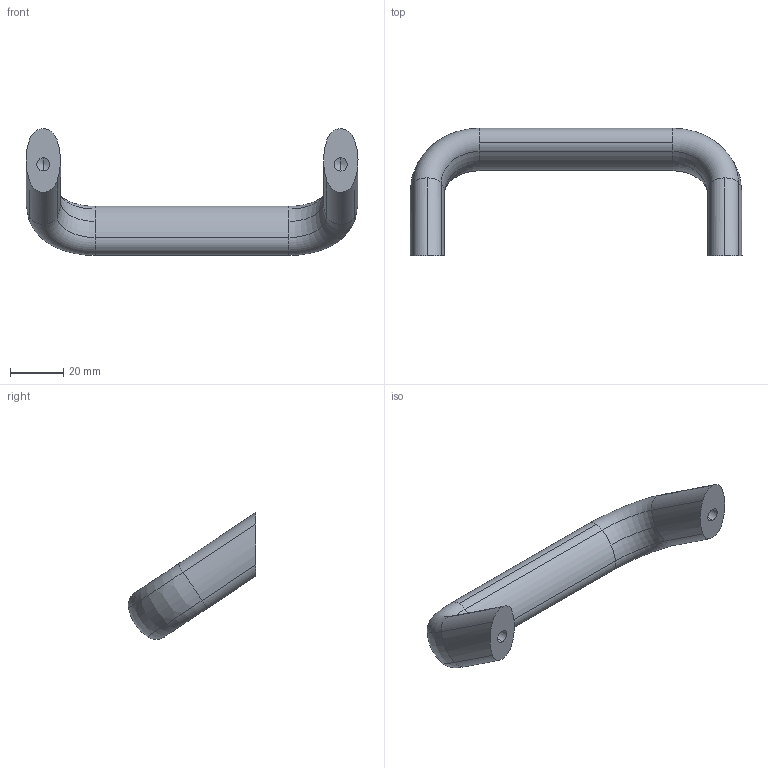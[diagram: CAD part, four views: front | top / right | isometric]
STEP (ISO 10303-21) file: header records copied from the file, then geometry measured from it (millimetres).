
FILE_DESCRIPTION (( 'STEP AP203' ), '1' );
FILE_NAME ('gn565-2_112.step', '2010-10-26T09:58:38', ( '_' ), ( '_' ), 'SwSTEP 2.0', 'SolidWorks 2010', '' );
FILE_SCHEMA (( 'CONFIG_CONTROL_DESIGN' ));
Length unit declared in the file: millimetre
Products named in the file (1): gn565-2_112
Bounding box: 125 x 47.99 x 47.78 mm (x, y, z)
Volume: 39691.5 mm3; surface area: 10988.1 mm2
Topology: 1 solids, 1 shells, 35 faces, 79 edges, 44 vertices
Faces by surface type: cylinder 19, torus 10, cone 4, plane 2
Entity records: 1024 total; most frequent: CARTESIAN_POINT 185, DIRECTION 179, ORIENTED_EDGE 150, AXIS2_PLACEMENT_3D 78, EDGE_CURVE 75, VERTEX_POINT 44, CIRCLE 42, EDGE_LOOP 37
